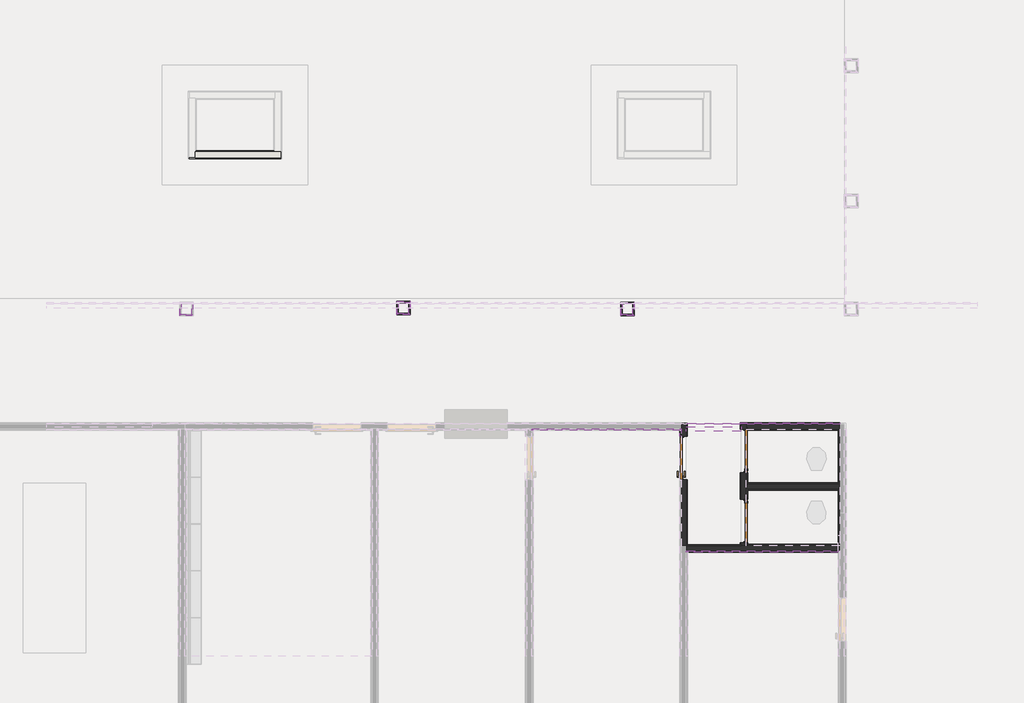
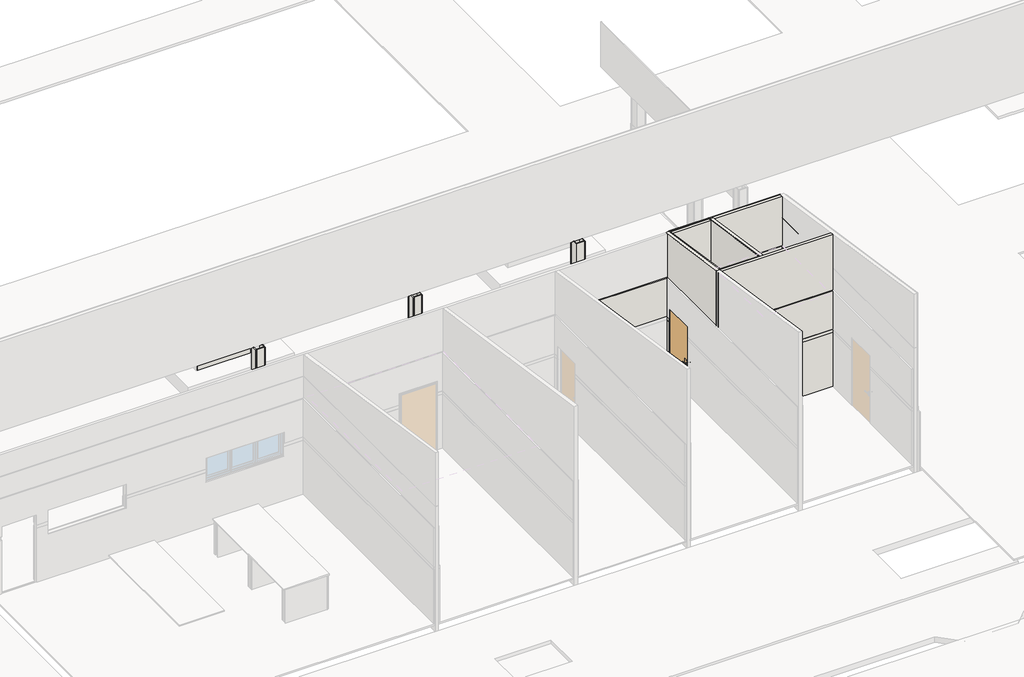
# One storey, part 5 of 28: 60 walls, 6 doors.
"""IFC4 building model written with IfcOpenShell, lengths in millimetres."""

from ifc_helpers import new_model, si_unit, frame, origin, origin_with_axes, place, context, project, spatial, polyline, outline, extrude, faceted_brep, transform, mapped, element, save
from components import door_29cd268e, door_29174598, door_95b59213, pf15_l82cm_5bfc7586, pf15_l82cm_686caa18, pm71_l82cm_d3679378

model = new_model("IFC4")

# Units and contexts
model_context = context("Model", 3, world=origin())
ifc_project = project(units=[si_unit("LENGTHUNIT", "METRE", prefix="MILLI")], contexts=[model_context])

# Site, building, storey
site = spatial("IfcSite", under=ifc_project)
building = spatial("IfcBuilding", under=site)
storey = spatial("IfcBuildingStorey", under=building, Name="Térreo", Elevation=0.0)

# Doors
placement = place(None, origin())
door_shape = door_29cd268e(model_context)
element("IfcDoor", 1, ObjectType="FDE_RP02_Reforço : FDE_RP02_Reforço", at=placement, inside=storey, context=model_context, shape_type="MappedRepresentation", body=[
    mapped(door_shape, transform((-37098.4091269, 9628.0, 1050.0), x_axis=(0.0, 1.0, 0.0), y_axis=(-1.0, 0.0, 0.0), z_axis=(0.0, 0.0, 1.0))),
])
door_2_shape = door_29174598(model_context)
element("IfcDoor", 2, ObjectType="FDE_SO_Soleiras1 : SO14_SoleiraRampadaDesnívelAté2cm_L=14cm_Cimentado 2", at=placement, inside=storey, context=model_context, shape_type="MappedRepresentation", body=[
    mapped(door_2_shape, transform((-35923.4091269, 8776.2493611, 215.0), x_axis=(0.0, -1.0, 0.0), y_axis=(1.0, 0.0, 0.0), z_axis=(0.0, 0.0, 1.0))),
])
door_3_shape = door_95b59213(model_context)
element("IfcDoor", 3, ObjectType="FDE_SO_Soleiras1 : SO14_SoleiraRampadaDesnívelAté2cm_L=14cm_Cimentado 2", at=placement, inside=storey, context=model_context, shape_type="MappedRepresentation", body=[
    mapped(door_3_shape, transform((-35923.4091269, 10123.0, 215.0), x_axis=(0.0, 1.0, 0.0), y_axis=(-1.0, 0.0, 0.0), z_axis=(0.0, 0.0, 1.0))),
])
pf15_l82cm_shape = pf15_l82cm_5bfc7586(model_context)
element("IfcDoor", 4, ObjectType="FDE_PF15_PF16_PF17_PortaemChapadeFerro : PF15_L82cm", at=placement, inside=storey, context=model_context, shape_type="MappedRepresentation", body=[
    mapped(pf15_l82cm_shape, transform((-35918.4091269, 8776.2493611, 215.0), x_axis=(0.0, -1.0, 0.0), y_axis=(1.0, 0.0, 0.0), z_axis=(0.0, 0.0, 1.0))),
])
pf15_l82cm_2_shape = pf15_l82cm_686caa18(model_context)
element("IfcDoor", 5, ObjectType="FDE_PF15_PF16_PF17_PortaemChapadeFerro : PF15_L82cm", at=placement, inside=storey, context=model_context, shape_type="MappedRepresentation", body=[
    mapped(pf15_l82cm_2_shape, transform((-35918.4091269, 10123.0, 215.0), x_axis=(0.0, 1.0, 0.0), y_axis=(-1.0, 0.0, 0.0), z_axis=(0.0, 0.0, 1.0))),
])
pm71_l82cm_shape = pm71_l82cm_d3679378(model_context)
element("IfcDoor", 6, ObjectType="FDE_PM70_PM71_PM72_PortadeMadeiraSarrafeada_BatenteMetálico : PM71_L82cm", at=placement, inside=storey, context=model_context, shape_type="MappedRepresentation", body=[
    mapped(pm71_l82cm_shape, transform((-37068.4091269, 9983.0, 0.0), x_axis=(0.0, 1.0, 0.0), y_axis=(-1.0, 0.0, 0.0), z_axis=(0.0, 0.0, 1.0))),
])

# Walls
element("IfcWall", 7, ObjectType="FDE_S712_AlvenariadeTijoloCerâmico/Baiano_Alvenaria_9cm - Existente", at=placement, inside=storey, context=model_context, shape_type="SweptSolid", body=[
    extrude(outline(polyline([(-34073.4091269, 8930.0), (-34073.4091269, 10631.3195082), (-33983.4091269, 10631.3195082), (-33983.4091269, 8930.0), (-34073.4091269, 8930.0)])), origin_with_axes(), (0.0, 0.0, 1.0), 3500.0),
])
element("IfcWall", 8, ObjectType="FDE_S712_AlvenariadeTijoloCerâmico/Baiano_Alvenaria_9cm - Existente", at=placement, inside=storey, context=model_context, shape_type="Brep", body=[
    faceted_brep([(-35873.4091269, 10541.3195082, 4104.3020738), (-35873.4091269, 10541.3195082, 0.0), (-34103.4091269, 10541.3195082, 0.0), (-34073.4091269, 10541.3195082, 0.0), (-34073.4091269, 10541.3195082, 2720.0), (-34073.4091269, 10541.3195082, 4104.3020738), (-35873.4091269, 10631.3195082, 0.0), (-35873.4091269, 10631.3195082, 2900.0), (-35873.4091269, 10631.3195082, 4090.8020738), (-34073.4091269, 10631.3195082, 4090.8020738), (-34073.4091269, 10631.3195082, 0.0), (-35873.4091269, 10586.3195082, 4097.5520738)], [[[0, 1, 2, 3, 4, 5]], [[6, 7, 8, 9, 10]], [[3, 2, 1, 6, 10]], [[0, 5, 9, 8, 11]], [[3, 10, 9, 5, 4]], [[0, 11, 8, 7, 6, 1]]]),
])
element("IfcWall", 9, ObjectType="FDE_S712_AlvenariadeTijoloCerâmico/Baiano_Alvenaria_9cm - Existente", at=placement, inside=storey, context=model_context, shape_type="Brep", body=[
    faceted_brep([(-34073.4091269, 8299.2493611, 0.0), (-34103.4091269, 8299.2493611, 0.0), (-35843.4091269, 8299.2493611, 0.0), (-35873.4091269, 8299.2493611, 0.0), (-35963.4091269, 8299.2493611, 0.0), (-37023.4091269, 8299.2493611, 0.0), (-37113.4091269, 8299.2493611, 0.0), (-37113.4091269, 8299.2493611, 4440.6125958), (-37023.4091269, 8299.2493611, 4440.6125958), (-35963.4091269, 8299.2493611, 4440.6125958), (-35873.4091269, 8299.2493611, 4440.6125958), (-34073.4091269, 8299.2493611, 4440.6125958), (-34073.4091269, 8299.2493611, 2720.0), (-34073.4091269, 8209.2493611, 0.0), (-34073.4091269, 8209.2493611, 220.0), (-34073.4091269, 8209.2493611, 1731.0528047), (-34073.4091269, 8209.2493611, 4454.1125958), (-37113.4091269, 8209.2493611, 4454.1125958), (-37113.4091269, 8209.2493611, 0.0)], [[[0, 1, 2, 3, 4, 5, 6, 7, 8, 9, 10, 11, 12]], [[13, 14, 15, 16, 17, 18]], [[6, 5, 4, 3, 2, 1, 0, 13, 18]], [[7, 6, 18, 17]], [[11, 10, 9, 8, 7, 17, 16]], [[0, 12, 11, 16, 15, 14, 13]]]),
])
element("IfcWall", 10, ObjectType="FDE_S712_AlvenariadeTijoloCerâmico/Baiano_Alvenaria_9cm - Existente", at=placement, inside=storey, context=model_context, shape_type="Brep", body=[
    faceted_brep([(-34073.4091269, 9484.6246806, 0.0), (-34103.4091269, 9484.6246806, 0.0), (-35843.4091269, 9484.6246806, 0.0), (-35873.4091269, 9484.6246806, 0.0), (-35873.4091269, 9484.6246806, 2720.0), (-35843.4091269, 9484.6246806, 2720.0), (-34103.4091269, 9484.6246806, 2720.0), (-34073.4091269, 9484.6246806, 2720.0), (-34073.4091269, 9394.6246806, 0.0), (-34073.4091269, 9394.6246806, 2720.0), (-34103.4091269, 9394.6246806, 2720.0), (-35873.4091269, 9394.6246806, 2720.0), (-35873.4091269, 9394.6246806, 0.0), (-34103.4091269, 9394.6246806, 0.0)], [[[0, 1, 2, 3, 4, 5, 6, 7]], [[8, 9, 10, 11, 12, 13]], [[3, 2, 1, 0, 8, 13, 12]], [[7, 6, 5, 4, 11, 10, 9]], [[4, 3, 12, 11]], [[0, 7, 9, 8]]]),
])
element("IfcWall", 11, ObjectType="FDE_S712_AlvenariadeTijoloCerâmico/Baiano_Alvenaria_9cm - Existente", at=placement, inside=storey, context=model_context, shape_type="Brep", body=[
    faceted_brep([(-37023.4091269, 8299.2493611, 4440.6125958), (-37023.4091269, 8299.2493611, 220.0), (-37023.4091269, 8299.2493611, 0.0), (-37023.4091269, 9566.0, 0.0), (-37023.4091269, 9566.0, 220.0), (-37023.4091269, 9566.0, 2112.0), (-37023.4091269, 10400.0, 2112.0), (-37023.4091269, 10400.0, 220.0), (-37023.4091269, 10400.0, 0.0), (-37023.4091269, 10652.3195082, 0.0), (-37023.4091269, 10652.3195082, 220.0), (-37023.4091269, 10652.3195082, 1824.9435125), (-37023.4091269, 10631.3195082, 1824.9435125), (-37023.4091269, 10631.3195082, 3944.0), (-37023.4091269, 10631.3195082, 4090.8020738), (-37023.4091269, 10586.3195082, 4097.5520738), (-37023.4091269, 10496.3195082, 4111.0520738), (-37113.4091269, 8299.2493611, 0.0), (-37113.4091269, 8299.2493611, 4440.6125958), (-37113.4091269, 10547.3195082, 4103.4020738), (-37113.4091269, 10631.3195082, 4090.8020738), (-37113.4091269, 10631.3195082, 3944.0), (-37113.4091269, 10631.3195082, 1824.9435125), (-37113.4091269, 10637.3195082, 1824.9435125), (-37113.4091269, 10652.3195082, 1824.9435125), (-37113.4091269, 10652.3195082, 0.0), (-37113.4091269, 10637.3195082, 0.0), (-37113.4091269, 10547.3195082, 0.0), (-37113.4091269, 10400.0, 0.0), (-37113.4091269, 10400.0, 2112.0), (-37113.4091269, 9566.0, 2112.0), (-37113.4091269, 9566.0, 0.0)], [[[0, 1, 2, 3, 4, 5, 6, 7, 8, 9, 10, 11, 12, 13, 14, 15, 16]], [[17, 18, 19, 20, 21, 22, 23, 24, 25, 26, 27, 28, 29, 30, 31]], [[25, 9, 8, 28, 27, 26]], [[2, 17, 31, 3]], [[2, 1, 0, 18, 17]], [[6, 29, 28, 8, 7]], [[29, 6, 5, 30]], [[30, 5, 4, 3, 31]], [[0, 16, 15, 14, 20, 19, 18]], [[9, 25, 24, 11, 10]], [[12, 11, 24, 23, 22]], [[12, 22, 21, 20, 14, 13]]]),
])
element("IfcWall", 12, ObjectType="FDE_S712_AlvenariadeTijoloCerâmico/Baiano_Alvenaria_9cm - Existente", at=placement, inside=storey, context=model_context, shape_type="Brep", body=[
    faceted_brep([(-35873.4091269, 8299.2493611, 0.0), (-35873.4091269, 9394.6246806, 0.0), (-35873.4091269, 9484.6246806, 0.0), (-35873.4091269, 10541.3195082, 0.0), (-35873.4091269, 10547.3195082, 0.0), (-35873.4091269, 10631.3195082, 0.0), (-35873.4091269, 10631.3195082, 2900.0), (-35873.4091269, 10586.3195082, 2900.0), (-35873.4091269, 10586.3195082, 4097.5520738), (-35873.4091269, 10541.3195082, 4104.3020738), (-35873.4091269, 8299.2493611, 4440.6125958), (-35873.4091269, 8299.2493611, 2720.0), (-35873.4091269, 8359.2493611, 215.0), (-35873.4091269, 8359.2493611, 2327.0), (-35873.4091269, 9193.2493611, 2327.0), (-35873.4091269, 9193.2493611, 215.0), (-35873.4091269, 10540.0, 2327.0), (-35873.4091269, 10540.0, 215.0), (-35873.4091269, 9706.0, 215.0), (-35873.4091269, 9706.0, 2327.0), (-35963.4091269, 10631.3195082, 0.0), (-35963.4091269, 8299.2493611, 0.0), (-35963.4091269, 8299.2493611, 4440.6125958), (-35963.4091269, 8320.2493611, 4437.4625958), (-35963.4091269, 10496.3195082, 4111.0520738), (-35963.4091269, 10586.3195082, 4097.5520738), (-35963.4091269, 10586.3195082, 2900.0), (-35963.4091269, 10631.3195082, 2900.0), (-35963.4091269, 10540.0, 215.0), (-35963.4091269, 10540.0, 220.0), (-35963.4091269, 10540.0, 2327.0), (-35963.4091269, 9706.0, 2327.0), (-35963.4091269, 9706.0, 220.0), (-35963.4091269, 9706.0, 215.0), (-35963.4091269, 8359.2493611, 2327.0), (-35963.4091269, 8359.2493611, 220.0), (-35963.4091269, 8359.2493611, 215.0), (-35963.4091269, 9193.2493611, 215.0), (-35963.4091269, 9193.2493611, 220.0), (-35963.4091269, 9193.2493611, 2327.0)], [[[0, 1, 2, 3, 4, 5, 6, 7, 8, 9, 10, 11], [12, 13, 14, 15], [16, 17, 18, 19]], [[20, 21, 22, 23, 24, 25, 26, 27], [28, 29, 30, 31, 32, 33], [34, 35, 36, 37, 38, 39]], [[5, 4, 3, 2, 1, 0, 21, 20]], [[0, 11, 10, 22, 21]], [[28, 17, 16, 30, 29]], [[30, 16, 19, 31]], [[18, 33, 32, 31, 19]], [[17, 28, 33, 18]], [[12, 36, 35, 34, 13]], [[13, 34, 39, 14]], [[14, 39, 38, 37, 15]], [[36, 12, 15, 37]], [[10, 9, 8, 25, 24, 23, 22]], [[7, 6, 27, 26]], [[5, 20, 27, 6]], [[25, 8, 7, 26]]]),
])
element("IfcWall", 13, ObjectType="FDE_S713_AlvenariadeTijoloLaminadoaVista_Alvenaria_1/2TijoloAlternado_11,5cm", at=placement, inside=storey, context=model_context, shape_type="Brep", body=[
    faceted_brep([(-46453.4525547, 15752.1451949, 0.0), (-44810.4525547, 15752.1451949, 0.0), (-44810.4525547, 15752.1451949, 800.0), (-46453.4525547, 15752.1451949, 800.0), (-46453.4525547, 15752.1451949, 100.0), (-46453.4525547, 15867.1451949, 0.0), (-46453.4525547, 15867.1451949, 800.0), (-44925.4525547, 15867.1451949, 800.0), (-44810.4525547, 15867.1451949, 800.0), (-44810.4525547, 15867.1451949, 100.0), (-44810.4525547, 15867.1451949, 0.0)], [[[0, 1, 2, 3, 4]], [[5, 6, 7, 8, 9, 10]], [[1, 0, 5, 10]], [[3, 2, 8, 7, 6]], [[2, 1, 10, 9, 8]], [[0, 4, 3, 6, 5]]]),
])
element("IfcWall", 14, ObjectType="Revestimento Cerâmico 10x10cm", at=placement, inside=storey, context=model_context, shape_type="SweptSolid", body=[
    extrude(outline(polyline([(-35984.4091269, 10667.3195082), (-34073.4091269, 10667.3195082), (-34073.4091269, 10637.3195082), (-35984.4091269, 10637.3195082), (-35984.4091269, 10667.3195082)])), origin_with_axes(), (0.0, 0.0, 1.0), 1731.0528047),
])
element("IfcWall", 15, ObjectType="Revestimento Cerâmico 10x10cm", at=placement, inside=storey, context=model_context, shape_type="Brep", body=[
    faceted_brep([(-35873.4091269, 10547.3195082, 0.0), (-35873.4091269, 9484.6246806, 0.0), (-35873.4091269, 9484.6246806, 2720.0), (-35873.4091269, 10547.3195082, 2720.0), (-35873.4091269, 10540.0, 215.0), (-35873.4091269, 10540.0, 2327.0), (-35873.4091269, 9706.0, 2327.0), (-35873.4091269, 9706.0, 215.0), (-35843.4091269, 9484.6246806, 0.0), (-35843.4091269, 9514.6246806, 0.0), (-35843.4091269, 10517.3195082, 0.0), (-35843.4091269, 10547.3195082, 0.0), (-35843.4091269, 10547.3195082, 2720.0), (-35843.4091269, 10517.3195082, 2720.0), (-35843.4091269, 9514.6246806, 2720.0), (-35843.4091269, 9484.6246806, 2720.0), (-35843.4091269, 10540.0, 2327.0), (-35843.4091269, 10540.0, 215.0), (-35843.4091269, 9706.0, 215.0), (-35843.4091269, 9706.0, 2327.0)], [[[0, 1, 2, 3], [4, 5, 6, 7]], [[8, 9, 10, 11, 12, 13, 14, 15], [16, 17, 18, 19]], [[1, 0, 11, 10, 9, 8]], [[3, 2, 15, 14, 13, 12]], [[2, 1, 8, 15]], [[0, 3, 12, 11]], [[4, 17, 16, 5]], [[5, 16, 19, 6]], [[6, 19, 18, 7]], [[17, 4, 7, 18]]]),
])
element("IfcWall", 16, ObjectType="Revestimento Cerâmico 10x10cm", at=placement, inside=storey, context=model_context, shape_type="SweptSolid", body=[
    extrude(outline(polyline([(-34073.4091269, 9484.6246806), (-35843.4091269, 9484.6246806), (-35843.4091269, 9514.6246806), (-34073.4091269, 9514.6246806), (-34073.4091269, 9484.6246806)])), origin_with_axes(), (0.0, 0.0, 1.0), 2720.0),
])
element("IfcWall", 17, ObjectType="Revestimento Cerâmico 10x10cm", at=placement, inside=storey, context=model_context, shape_type="Brep", body=[
    faceted_brep([(-34073.4091269, 9484.6246806, 0.0), (-34073.4091269, 10541.3195082, 0.0), (-34073.4091269, 10541.3195082, 2720.0), (-34073.4091269, 9484.6246806, 2720.0), (-34103.4091269, 9484.6246806, 0.0), (-34103.4091269, 9484.6246806, 2720.0), (-34103.4091269, 10517.3195082, 2720.0), (-34103.4091269, 10541.3195082, 2720.0), (-34103.4091269, 10541.3195082, 0.0), (-34103.4091269, 10517.3195082, 0.0)], [[[0, 1, 2, 3]], [[4, 5, 6, 7, 8, 9]], [[1, 0, 4, 9, 8]], [[3, 2, 7, 6, 5]], [[0, 3, 5, 4]], [[2, 1, 8, 7]]]),
])
element("IfcWall", 18, ObjectType="Revestimento Cerâmico 10x10cm", at=placement, inside=storey, context=model_context, shape_type="Brep", body=[
    faceted_brep([(-34103.4091269, 10547.3195082, 0.0), (-35843.4091269, 10547.3195082, 0.0), (-35843.4091269, 10547.3195082, 2720.0), (-34103.4091269, 10547.3195082, 2720.0), (-34103.4091269, 10517.3195082, 0.0), (-34103.4091269, 10517.3195082, 2720.0), (-35843.4091269, 10517.3195082, 2720.0), (-35843.4091269, 10517.3195082, 0.0), (-34103.4091269, 10541.3195082, 0.0), (-34103.4091269, 10541.3195082, 2720.0)], [[[0, 1, 2, 3]], [[4, 5, 6, 7]], [[1, 0, 8, 4, 7]], [[3, 2, 6, 5, 9]], [[0, 3, 9, 5, 4, 8]], [[2, 1, 7, 6]]]),
])
element("IfcWall", 19, ObjectType="Pardes Externas_Pintura Acrílica Branco Neve", at=placement, inside=storey, context=model_context, shape_type="Brep", body=[
    faceted_brep([(-38271.9091269, 12950.0, 1794.0), (-38250.9091269, 12950.0, 1794.0), (-38050.9091269, 12950.0, 1794.0), (-38029.9091269, 12950.0, 1794.0), (-38029.9091269, 12950.0, 2900.0), (-38050.9091269, 12950.0, 2900.0), (-38250.9091269, 12950.0, 2900.0), (-38271.9091269, 12950.0, 2900.0), (-38271.9091269, 12971.0, 1794.0), (-38271.9091269, 12971.0, 2900.0), (-38029.9091269, 12971.0, 2900.0), (-38029.9091269, 12971.0, 1794.0)], [[[0, 1, 2, 3, 4, 5, 6, 7]], [[8, 9, 10, 11]], [[3, 2, 1, 0, 8, 11]], [[7, 6, 5, 4, 10, 9]], [[0, 7, 9, 8]], [[4, 3, 11, 10]]]),
])
element("IfcWall", 20, ObjectType="Revestimento Cerâmico 10x10cm", at=placement, inside=storey, context=model_context, shape_type="Brep", body=[
    faceted_brep([(-38280.9091269, 12950.0, 194.0), (-38250.9091269, 12950.0, 194.0), (-38050.9091269, 12950.0, 194.0), (-38020.9091269, 12950.0, 194.0), (-38020.9091269, 12950.0, 1694.0), (-38050.9091269, 12950.0, 1694.0), (-38250.9091269, 12950.0, 1694.0), (-38280.9091269, 12950.0, 1694.0), (-38280.9091269, 12980.0, 194.0), (-38280.9091269, 12980.0, 1694.0), (-38020.9091269, 12980.0, 1694.0), (-38020.9091269, 12980.0, 194.0)], [[[0, 1, 2, 3, 4, 5, 6, 7]], [[8, 9, 10, 11]], [[3, 2, 1, 0, 8, 11]], [[7, 6, 5, 4, 10, 9]], [[0, 7, 9, 8]], [[4, 3, 11, 10]]]),
])
element("IfcWall", 21, ObjectType="Revestimento Cerâmico 10x10cm", at=placement, inside=storey, context=model_context, shape_type="Brep", body=[
    faceted_brep([(-38250.9091269, 12720.0, 194.0), (-38250.9091269, 12750.0, 194.0), (-38250.9091269, 12950.0, 194.0), (-38250.9091269, 12950.0, 1694.0), (-38250.9091269, 12750.0, 1694.0), (-38250.9091269, 12720.0, 1694.0), (-38280.9091269, 12720.0, 194.0), (-38280.9091269, 12720.0, 1694.0), (-38280.9091269, 12950.0, 1694.0), (-38280.9091269, 12950.0, 194.0)], [[[0, 1, 2, 3, 4, 5]], [[6, 7, 8, 9]], [[2, 1, 0, 6, 9]], [[5, 4, 3, 8, 7]], [[3, 2, 9, 8]], [[0, 5, 7, 6]]]),
])
element("IfcWall", 22, ObjectType="Revestimento Cerâmico 10x10cm", at=placement, inside=storey, context=model_context, shape_type="Brep", body=[
    faceted_brep([(-38050.9091269, 12950.0, 194.0), (-38050.9091269, 12750.0, 194.0), (-38050.9091269, 12720.0, 194.0), (-38050.9091269, 12720.0, 1694.0), (-38050.9091269, 12750.0, 1694.0), (-38050.9091269, 12950.0, 1694.0), (-38020.9091269, 12950.0, 194.0), (-38020.9091269, 12950.0, 1694.0), (-38020.9091269, 12720.0, 1694.0), (-38020.9091269, 12720.0, 194.0)], [[[0, 1, 2, 3, 4, 5]], [[6, 7, 8, 9]], [[2, 1, 0, 6, 9]], [[5, 4, 3, 8, 7]], [[0, 5, 7, 6]], [[3, 2, 9, 8]]]),
])
element("IfcWall", 23, ObjectType="Revestimento Cerâmico 10x10cm", at=placement, inside=storey, context=model_context, shape_type="SweptSolid", body=[
    extrude(outline(polyline([(-38050.9091269, 12720.0), (-38250.9091269, 12720.0), (-38250.9091269, 12750.0), (-38050.9091269, 12750.0), (-38050.9091269, 12720.0)])), frame((0.0, 0.0, 194.0), z_axis=(0.0, 0.0, 1.0), x_axis=(1.0, 0.0, 0.0)), (0.0, 0.0, 1.0), 1500.0),
])
element("IfcWall", 24, ObjectType="Faixa - Revestimento Cerâmico Verde Folha 10x10cm", at=placement, inside=storey, context=model_context, shape_type="Brep", body=[
    faceted_brep([(-38280.9091269, 12950.0, 1694.0), (-38250.9091269, 12950.0, 1694.0), (-38050.9091269, 12950.0, 1694.0), (-38020.9091269, 12950.0, 1694.0), (-38020.9091269, 12950.0, 1794.0), (-38050.9091269, 12950.0, 1794.0), (-38250.9091269, 12950.0, 1794.0), (-38280.9091269, 12950.0, 1794.0), (-38280.9091269, 12980.0, 1694.0), (-38280.9091269, 12980.0, 1794.0), (-38020.9091269, 12980.0, 1794.0), (-38020.9091269, 12980.0, 1694.0)], [[[0, 1, 2, 3, 4, 5, 6, 7]], [[8, 9, 10, 11]], [[3, 2, 1, 0, 8, 11]], [[7, 6, 5, 4, 10, 9]], [[4, 3, 11, 10]], [[0, 7, 9, 8]]]),
])
element("IfcWall", 25, ObjectType="Faixa - Revestimento Cerâmico Verde Folha 10x10cm", at=placement, inside=storey, context=model_context, shape_type="Brep", body=[
    faceted_brep([(-38050.9091269, 12950.0, 1694.0), (-38050.9091269, 12750.0, 1694.0), (-38050.9091269, 12720.0, 1694.0), (-38050.9091269, 12720.0, 1794.0), (-38050.9091269, 12750.0, 1794.0), (-38050.9091269, 12950.0, 1794.0), (-38020.9091269, 12950.0, 1694.0), (-38020.9091269, 12950.0, 1794.0), (-38020.9091269, 12720.0, 1794.0), (-38020.9091269, 12720.0, 1694.0)], [[[0, 1, 2, 3, 4, 5]], [[6, 7, 8, 9]], [[2, 1, 0, 6, 9]], [[5, 4, 3, 8, 7]], [[0, 5, 7, 6]], [[3, 2, 9, 8]]]),
])
element("IfcWall", 26, ObjectType="Faixa - Revestimento Cerâmico Verde Folha 10x10cm", at=placement, inside=storey, context=model_context, shape_type="Brep", body=[
    faceted_brep([(-38280.9091269, 12720.0, 1694.0), (-38050.9091269, 12720.0, 1694.0), (-38050.9091269, 12720.0, 1794.0), (-38280.9091269, 12720.0, 1794.0), (-38280.9091269, 12750.0, 1694.0), (-38280.9091269, 12750.0, 1794.0), (-38250.9091269, 12750.0, 1794.0), (-38050.9091269, 12750.0, 1794.0), (-38050.9091269, 12750.0, 1694.0), (-38250.9091269, 12750.0, 1694.0), (-38050.9091269, 12729.0, 1794.0)], [[[0, 1, 2, 3]], [[4, 5, 6, 7, 8, 9]], [[1, 0, 4, 9, 8]], [[3, 2, 10, 7, 6, 5]], [[2, 1, 8, 7, 10]], [[0, 3, 5, 4]]]),
])
element("IfcWall", 27, ObjectType="Faixa - Revestimento Cerâmico Verde Folha 10x10cm", at=placement, inside=storey, context=model_context, shape_type="SweptSolid", body=[
    extrude(outline(polyline([(-38280.9091269, 12750.0), (-38280.9091269, 12950.0), (-38250.9091269, 12950.0), (-38250.9091269, 12750.0), (-38280.9091269, 12750.0)])), frame((0.0, 0.0, 1694.0), z_axis=(0.0, 0.0, 1.0), x_axis=(1.0, 0.0, 0.0)), (0.0, 0.0, 1.0), 100.0),
])
element("IfcWall", 28, ObjectType="Pardes Externas_Pintura Acrílica Branco Neve", at=placement, inside=storey, context=model_context, shape_type="SweptSolid", body=[
    extrude(outline(polyline([(-38050.9091269, 12729.0), (-38250.9091269, 12729.0), (-38250.9091269, 12750.0), (-38050.9091269, 12750.0), (-38050.9091269, 12729.0)])), frame((0.0, 0.0, 1794.0), z_axis=(0.0, 0.0, 1.0), x_axis=(1.0, 0.0, 0.0)), (0.0, 0.0, 1.0), 1106.0),
])
element("IfcWall", 29, ObjectType="Pardes Externas_Pintura Acrílica Branco Neve", at=placement, inside=storey, context=model_context, shape_type="Brep", body=[
    faceted_brep([(-38050.9091269, 12950.0, 1794.0), (-38050.9091269, 12750.0, 1794.0), (-38050.9091269, 12729.0, 1794.0), (-38050.9091269, 12729.0, 2900.0), (-38050.9091269, 12750.0, 2900.0), (-38050.9091269, 12950.0, 2900.0), (-38029.9091269, 12950.0, 1794.0), (-38029.9091269, 12950.0, 2900.0), (-38029.9091269, 12729.0, 2900.0), (-38029.9091269, 12729.0, 1794.0)], [[[0, 1, 2, 3, 4, 5]], [[6, 7, 8, 9]], [[2, 1, 0, 6, 9]], [[5, 4, 3, 8, 7]], [[3, 2, 9, 8]], [[0, 5, 7, 6]]]),
])
element("IfcWall", 30, ObjectType="Pardes Externas_Pintura Acrílica Branco Neve", at=placement, inside=storey, context=model_context, shape_type="Brep", body=[
    faceted_brep([(-38271.9091269, 12950.0, 1794.0), (-38271.9091269, 12729.0, 1794.0), (-38271.9091269, 12729.0, 2900.0), (-38271.9091269, 12950.0, 2900.0), (-38250.9091269, 12950.0, 1794.0), (-38250.9091269, 12950.0, 2900.0), (-38250.9091269, 12750.0, 2900.0), (-38250.9091269, 12729.0, 2900.0), (-38250.9091269, 12729.0, 1794.0), (-38250.9091269, 12750.0, 1794.0)], [[[0, 1, 2, 3]], [[4, 5, 6, 7, 8, 9]], [[1, 0, 4, 9, 8]], [[3, 2, 7, 6, 5]], [[2, 1, 8, 7]], [[0, 3, 5, 4]]]),
])
element("IfcWall", 31, ObjectType="Pardes Externas_Pintura Acrílica Branco Neve", at=placement, inside=storey, context=model_context, shape_type="Brep", body=[
    faceted_brep([(-42569.4091269, 12965.0, 1794.0), (-42548.4091269, 12965.0, 1794.0), (-42348.4091269, 12965.0, 1794.0), (-42327.4091269, 12965.0, 1794.0), (-42327.4091269, 12965.0, 2900.0), (-42348.4091269, 12965.0, 2900.0), (-42548.4091269, 12965.0, 2900.0), (-42569.4091269, 12965.0, 2900.0), (-42569.4091269, 12986.0, 1794.0), (-42569.4091269, 12986.0, 2900.0), (-42327.4091269, 12986.0, 2900.0), (-42327.4091269, 12986.0, 1794.0)], [[[0, 1, 2, 3, 4, 5, 6, 7]], [[8, 9, 10, 11]], [[3, 2, 1, 0, 8, 11]], [[7, 6, 5, 4, 10, 9]], [[0, 7, 9, 8]], [[4, 3, 11, 10]]]),
])
element("IfcWall", 32, ObjectType="Revestimento Cerâmico 10x10cm", at=placement, inside=storey, context=model_context, shape_type="Brep", body=[
    faceted_brep([(-42578.4091269, 12965.0, 194.0), (-42548.4091269, 12965.0, 194.0), (-42348.4091269, 12965.0, 194.0), (-42318.4091269, 12965.0, 194.0), (-42318.4091269, 12965.0, 1694.0), (-42348.4091269, 12965.0, 1694.0), (-42548.4091269, 12965.0, 1694.0), (-42578.4091269, 12965.0, 1694.0), (-42578.4091269, 12995.0, 194.0), (-42578.4091269, 12995.0, 1694.0), (-42318.4091269, 12995.0, 1694.0), (-42318.4091269, 12995.0, 194.0)], [[[0, 1, 2, 3, 4, 5, 6, 7]], [[8, 9, 10, 11]], [[3, 2, 1, 0, 8, 11]], [[7, 6, 5, 4, 10, 9]], [[0, 7, 9, 8]], [[4, 3, 11, 10]]]),
])
element("IfcWall", 33, ObjectType="Revestimento Cerâmico 10x10cm", at=placement, inside=storey, context=model_context, shape_type="Brep", body=[
    faceted_brep([(-42548.4091269, 12735.0, 194.0), (-42548.4091269, 12765.0, 194.0), (-42548.4091269, 12965.0, 194.0), (-42548.4091269, 12965.0, 1694.0), (-42548.4091269, 12765.0, 1694.0), (-42548.4091269, 12735.0, 1694.0), (-42578.4091269, 12735.0, 194.0), (-42578.4091269, 12735.0, 1694.0), (-42578.4091269, 12965.0, 1694.0), (-42578.4091269, 12965.0, 194.0)], [[[0, 1, 2, 3, 4, 5]], [[6, 7, 8, 9]], [[2, 1, 0, 6, 9]], [[5, 4, 3, 8, 7]], [[3, 2, 9, 8]], [[0, 5, 7, 6]]]),
])
element("IfcWall", 34, ObjectType="Revestimento Cerâmico 10x10cm", at=placement, inside=storey, context=model_context, shape_type="Brep", body=[
    faceted_brep([(-42348.4091269, 12965.0, 194.0), (-42348.4091269, 12765.0, 194.0), (-42348.4091269, 12735.0, 194.0), (-42348.4091269, 12735.0, 1694.0), (-42348.4091269, 12765.0, 1694.0), (-42348.4091269, 12965.0, 1694.0), (-42318.4091269, 12965.0, 194.0), (-42318.4091269, 12965.0, 1694.0), (-42318.4091269, 12735.0, 1694.0), (-42318.4091269, 12735.0, 194.0)], [[[0, 1, 2, 3, 4, 5]], [[6, 7, 8, 9]], [[2, 1, 0, 6, 9]], [[5, 4, 3, 8, 7]], [[0, 5, 7, 6]], [[3, 2, 9, 8]]]),
])
element("IfcWall", 35, ObjectType="Revestimento Cerâmico 10x10cm", at=placement, inside=storey, context=model_context, shape_type="SweptSolid", body=[
    extrude(outline(polyline([(-42348.4091269, 12735.0), (-42548.4091269, 12735.0), (-42548.4091269, 12765.0), (-42348.4091269, 12765.0), (-42348.4091269, 12735.0)])), frame((0.0, 0.0, 194.0), z_axis=(0.0, 0.0, 1.0), x_axis=(1.0, 0.0, 0.0)), (0.0, 0.0, 1.0), 1500.0),
])
element("IfcWall", 36, ObjectType="Faixa - Revestimento Cerâmico Verde Folha 10x10cm", at=placement, inside=storey, context=model_context, shape_type="Brep", body=[
    faceted_brep([(-42578.4091269, 12965.0, 1694.0), (-42548.4091269, 12965.0, 1694.0), (-42348.4091269, 12965.0, 1694.0), (-42318.4091269, 12965.0, 1694.0), (-42318.4091269, 12965.0, 1794.0), (-42348.4091269, 12965.0, 1794.0), (-42548.4091269, 12965.0, 1794.0), (-42578.4091269, 12965.0, 1794.0), (-42578.4091269, 12995.0, 1694.0), (-42578.4091269, 12995.0, 1794.0), (-42318.4091269, 12995.0, 1794.0), (-42318.4091269, 12995.0, 1694.0)], [[[0, 1, 2, 3, 4, 5, 6, 7]], [[8, 9, 10, 11]], [[3, 2, 1, 0, 8, 11]], [[7, 6, 5, 4, 10, 9]], [[4, 3, 11, 10]], [[0, 7, 9, 8]]]),
])
element("IfcWall", 37, ObjectType="Faixa - Revestimento Cerâmico Verde Folha 10x10cm", at=placement, inside=storey, context=model_context, shape_type="Brep", body=[
    faceted_brep([(-42348.4091269, 12965.0, 1694.0), (-42348.4091269, 12765.0, 1694.0), (-42348.4091269, 12735.0, 1694.0), (-42348.4091269, 12735.0, 1794.0), (-42348.4091269, 12765.0, 1794.0), (-42348.4091269, 12965.0, 1794.0), (-42318.4091269, 12965.0, 1694.0), (-42318.4091269, 12965.0, 1794.0), (-42318.4091269, 12735.0, 1794.0), (-42318.4091269, 12735.0, 1694.0)], [[[0, 1, 2, 3, 4, 5]], [[6, 7, 8, 9]], [[2, 1, 0, 6, 9]], [[5, 4, 3, 8, 7]], [[0, 5, 7, 6]], [[3, 2, 9, 8]]]),
])
element("IfcWall", 38, ObjectType="Faixa - Revestimento Cerâmico Verde Folha 10x10cm", at=placement, inside=storey, context=model_context, shape_type="Brep", body=[
    faceted_brep([(-42578.4091269, 12735.0, 1694.0), (-42348.4091269, 12735.0, 1694.0), (-42348.4091269, 12735.0, 1794.0), (-42578.4091269, 12735.0, 1794.0), (-42578.4091269, 12765.0, 1694.0), (-42578.4091269, 12765.0, 1794.0), (-42548.4091269, 12765.0, 1794.0), (-42348.4091269, 12765.0, 1794.0), (-42348.4091269, 12765.0, 1694.0), (-42548.4091269, 12765.0, 1694.0), (-42348.4091269, 12744.0, 1794.0)], [[[0, 1, 2, 3]], [[4, 5, 6, 7, 8, 9]], [[1, 0, 4, 9, 8]], [[3, 2, 10, 7, 6, 5]], [[2, 1, 8, 7, 10]], [[0, 3, 5, 4]]]),
])
element("IfcWall", 39, ObjectType="Faixa - Revestimento Cerâmico Verde Folha 10x10cm", at=placement, inside=storey, context=model_context, shape_type="SweptSolid", body=[
    extrude(outline(polyline([(-42578.4091269, 12765.0), (-42578.4091269, 12965.0), (-42548.4091269, 12965.0), (-42548.4091269, 12765.0), (-42578.4091269, 12765.0)])), frame((0.0, 0.0, 1694.0), z_axis=(0.0, 0.0, 1.0), x_axis=(1.0, 0.0, 0.0)), (0.0, 0.0, 1.0), 100.0),
])
element("IfcWall", 40, ObjectType="Pardes Externas_Pintura Acrílica Branco Neve", at=placement, inside=storey, context=model_context, shape_type="SweptSolid", body=[
    extrude(outline(polyline([(-42348.4091269, 12744.0), (-42548.4091269, 12744.0), (-42548.4091269, 12765.0), (-42348.4091269, 12765.0), (-42348.4091269, 12744.0)])), frame((0.0, 0.0, 1794.0), z_axis=(0.0, 0.0, 1.0), x_axis=(1.0, 0.0, 0.0)), (0.0, 0.0, 1.0), 1106.0),
])
element("IfcWall", 41, ObjectType="Pardes Externas_Pintura Acrílica Branco Neve", at=placement, inside=storey, context=model_context, shape_type="Brep", body=[
    faceted_brep([(-42348.4091269, 12965.0, 1794.0), (-42348.4091269, 12765.0, 1794.0), (-42348.4091269, 12744.0, 1794.0), (-42348.4091269, 12744.0, 2900.0), (-42348.4091269, 12765.0, 2900.0), (-42348.4091269, 12965.0, 2900.0), (-42327.4091269, 12965.0, 1794.0), (-42327.4091269, 12965.0, 2900.0), (-42327.4091269, 12744.0, 2900.0), (-42327.4091269, 12744.0, 1794.0)], [[[0, 1, 2, 3, 4, 5]], [[6, 7, 8, 9]], [[2, 1, 0, 6, 9]], [[5, 4, 3, 8, 7]], [[3, 2, 9, 8]], [[0, 5, 7, 6]]]),
])
element("IfcWall", 42, ObjectType="Pardes Externas_Pintura Acrílica Branco Neve", at=placement, inside=storey, context=model_context, shape_type="Brep", body=[
    faceted_brep([(-42569.4091269, 12965.0, 1794.0), (-42569.4091269, 12744.0, 1794.0), (-42569.4091269, 12744.0, 2900.0), (-42569.4091269, 12965.0, 2900.0), (-42548.4091269, 12965.0, 1794.0), (-42548.4091269, 12965.0, 2900.0), (-42548.4091269, 12765.0, 2900.0), (-42548.4091269, 12744.0, 2900.0), (-42548.4091269, 12744.0, 1794.0), (-42548.4091269, 12765.0, 1794.0)], [[[0, 1, 2, 3]], [[4, 5, 6, 7, 8, 9]], [[1, 0, 4, 9, 8]], [[3, 2, 7, 6, 5]], [[2, 1, 8, 7]], [[0, 3, 5, 4]]]),
])
element("IfcWall", 43, ObjectType="Faixa - Revestimento Cerâmico Verde Folha 10x10cm", at=placement, inside=storey, context=model_context, shape_type="Brep", body=[
    faceted_brep([(-46753.4091269, 12720.0, 1694.0), (-46523.4091269, 12720.0, 1694.0), (-46523.4091269, 12720.0, 1794.0), (-46753.4091269, 12720.0, 1794.0), (-46753.4091269, 12750.0, 1694.0), (-46753.4091269, 12750.0, 1794.0), (-46723.4091269, 12750.0, 1794.0), (-46523.4091269, 12750.0, 1794.0), (-46523.4091269, 12750.0, 1694.0), (-46723.4091269, 12750.0, 1694.0), (-46523.4091269, 12729.0, 1794.0)], [[[0, 1, 2, 3]], [[4, 5, 6, 7, 8, 9]], [[1, 0, 4, 9, 8]], [[3, 2, 10, 7, 6, 5]], [[2, 1, 8, 7, 10]], [[0, 3, 5, 4]]]),
])
element("IfcWall", 44, ObjectType="Faixa - Revestimento Cerâmico Verde Folha 10x10cm", at=placement, inside=storey, context=model_context, shape_type="SweptSolid", body=[
    extrude(outline(polyline([(-46753.4091269, 12750.0), (-46753.4091269, 12950.0), (-46723.4091269, 12950.0), (-46723.4091269, 12750.0), (-46753.4091269, 12750.0)])), frame((0.0, 0.0, 1694.0), z_axis=(0.0, 0.0, 1.0), x_axis=(1.0, 0.0, 0.0)), (0.0, 0.0, 1.0), 100.0),
])
element("IfcWall", 45, ObjectType="Pardes Externas_Pintura Acrílica Branco Neve", at=placement, inside=storey, context=model_context, shape_type="SweptSolid", body=[
    extrude(outline(polyline([(-46523.4091269, 12729.0), (-46723.4091269, 12729.0), (-46723.4091269, 12750.0), (-46523.4091269, 12750.0), (-46523.4091269, 12729.0)])), frame((0.0, 0.0, 1794.0), z_axis=(0.0, 0.0, 1.0), x_axis=(1.0, 0.0, 0.0)), (0.0, 0.0, 1.0), 1106.0),
])
element("IfcWall", 46, ObjectType="Pardes Externas_Pintura Acrílica Branco Neve", at=placement, inside=storey, context=model_context, shape_type="Brep", body=[
    faceted_brep([(-46523.4091269, 12950.0, 1794.0), (-46523.4091269, 12750.0, 1794.0), (-46523.4091269, 12729.0, 1794.0), (-46523.4091269, 12729.0, 2900.0), (-46523.4091269, 12750.0, 2900.0), (-46523.4091269, 12950.0, 2900.0), (-46502.4091269, 12950.0, 1794.0), (-46502.4091269, 12950.0, 2900.0), (-46502.4091269, 12729.0, 2900.0), (-46502.4091269, 12729.0, 1794.0)], [[[0, 1, 2, 3, 4, 5]], [[6, 7, 8, 9]], [[2, 1, 0, 6, 9]], [[5, 4, 3, 8, 7]], [[3, 2, 9, 8]], [[0, 5, 7, 6]]]),
])
element("IfcWall", 47, ObjectType="Pardes Externas_Pintura Acrílica Branco Neve", at=placement, inside=storey, context=model_context, shape_type="Brep", body=[
    faceted_brep([(-46744.4091269, 12950.0, 1794.0), (-46744.4091269, 12729.0, 1794.0), (-46744.4091269, 12729.0, 2900.0), (-46744.4091269, 12950.0, 2900.0), (-46723.4091269, 12950.0, 1794.0), (-46723.4091269, 12950.0, 2900.0), (-46723.4091269, 12750.0, 2900.0), (-46723.4091269, 12729.0, 2900.0), (-46723.4091269, 12729.0, 1794.0), (-46723.4091269, 12750.0, 1794.0)], [[[0, 1, 2, 3]], [[4, 5, 6, 7, 8, 9]], [[1, 0, 4, 9, 8]], [[3, 2, 7, 6, 5]], [[2, 1, 8, 7]], [[0, 3, 5, 4]]]),
])
element("IfcWall", 48, ObjectType="Revestimento Cerâmico 10x10cm", at=placement, inside=storey, context=model_context, shape_type="Brep", body=[
    faceted_brep([(-35873.4091269, 9394.6246806, 0.0), (-35873.4091269, 8299.2493611, 0.0), (-35873.4091269, 8299.2493611, 2720.0), (-35873.4091269, 9394.6246806, 2720.0), (-35873.4091269, 8359.2493611, 2327.0), (-35873.4091269, 8359.2493611, 215.0), (-35873.4091269, 9193.2493611, 215.0), (-35873.4091269, 9193.2493611, 2327.0), (-35843.4091269, 8299.2493611, 0.0), (-35843.4091269, 9364.6246806, 0.0), (-35843.4091269, 9394.6246806, 0.0), (-35843.4091269, 9394.6246806, 2720.0), (-35843.4091269, 9364.6246806, 2720.0), (-35843.4091269, 8329.2493611, 2720.0), (-35843.4091269, 8299.2493611, 2720.0), (-35843.4091269, 8299.2493611, 220.0), (-35843.4091269, 8359.2493611, 215.0), (-35843.4091269, 8359.2493611, 2327.0), (-35843.4091269, 9193.2493611, 2327.0), (-35843.4091269, 9193.2493611, 215.0)], [[[0, 1, 2, 3], [4, 5, 6, 7]], [[8, 9, 10, 11, 12, 13, 14, 15], [16, 17, 18, 19]], [[1, 0, 10, 9, 8]], [[3, 2, 14, 13, 12, 11]], [[2, 1, 8, 15, 14]], [[0, 3, 11, 10]], [[16, 5, 4, 17]], [[17, 4, 7, 18]], [[18, 7, 6, 19]], [[5, 16, 19, 6]]]),
])
element("IfcWall", 49, ObjectType="Revestimento Cerâmico 10x10cm", at=placement, inside=storey, context=model_context, shape_type="SweptSolid", body=[
    extrude(outline(polyline([(-34073.4091269, 8299.2493611), (-35843.4091269, 8299.2493611), (-35843.4091269, 8329.2493611), (-34073.4091269, 8329.2493611), (-34073.4091269, 8299.2493611)])), frame((0.0, 0.0, 220.0), z_axis=(0.0, 0.0, 1.0), x_axis=(1.0, 0.0, 0.0)), (0.0, 0.0, 1.0), 2500.0),
])
element("IfcWall", 50, ObjectType="Revestimento Cerâmico 10x10cm", at=placement, inside=storey, context=model_context, shape_type="Brep", body=[
    faceted_brep([(-34073.4091269, 8299.2493611, 2720.0), (-34073.4091269, 8299.2493611, 0.0), (-34073.4091269, 9394.6246806, 0.0), (-34073.4091269, 9394.6246806, 2720.0), (-34103.4091269, 8299.2493611, 0.0), (-34103.4091269, 8299.2493611, 2720.0), (-34103.4091269, 9364.6246806, 2720.0), (-34103.4091269, 9394.6246806, 2720.0), (-34103.4091269, 9394.6246806, 0.0), (-34103.4091269, 9364.6246806, 0.0)], [[[0, 1, 2, 3]], [[4, 5, 6, 7, 8, 9]], [[2, 1, 4, 9, 8]], [[0, 3, 7, 6, 5]], [[3, 2, 8, 7]], [[0, 5, 4, 1]]]),
])
element("IfcWall", 51, ObjectType="Revestimento Cerâmico 10x10cm", at=placement, inside=storey, context=model_context, shape_type="SweptSolid", body=[
    extrude(outline(polyline([(-35843.4091269, 9394.6246806), (-34103.4091269, 9394.6246806), (-34103.4091269, 9364.6246806), (-35843.4091269, 9364.6246806), (-35843.4091269, 9394.6246806)])), origin_with_axes(), (0.0, 0.0, 1.0), 2720.0),
])
element("IfcWall", 52, ObjectType="Pardes Externas_Pintura Acrílica Branco Neve", at=placement, inside=storey, context=model_context, shape_type="Brep", body=[
    faceted_brep([(-35984.4091269, 10637.3195082, 1824.9435125), (-34073.4091269, 10637.3195082, 1824.9435125), (-34073.4091269, 10637.3195082, 4089.9020738), (-35984.4091269, 10637.3195082, 4089.9020738), (-35984.4091269, 10637.3195082, 2900.0), (-35984.4091269, 10658.3195082, 1824.9435125), (-35984.4091269, 10658.3195082, 2900.0), (-35984.4091269, 10658.3195082, 4086.7520738), (-34073.4091269, 10658.3195082, 4086.7520738), (-34073.4091269, 10658.3195082, 1824.9435125)], [[[0, 1, 2, 3, 4]], [[5, 6, 7, 8, 9]], [[3, 2, 8, 7]], [[1, 0, 5, 9]], [[0, 4, 3, 7, 6, 5]], [[1, 9, 8, 2]]]),
])
element("IfcWall", 53, ObjectType="Faixa - Revestimento Cerâmico Verde Folha 10x10cm", at=placement, inside=storey, context=model_context, shape_type="Brep", body=[
    faceted_brep([(-35984.4091269, 10637.3195082, 1731.0528047), (-34073.4091269, 10637.3195082, 1731.0528047), (-34073.4091269, 10637.3195082, 1824.9435125), (-35984.4091269, 10637.3195082, 1824.9435125), (-35984.4091269, 10667.3195082, 1731.0528047), (-35984.4091269, 10667.3195082, 1824.9435125), (-34073.4091269, 10667.3195082, 1824.9435125), (-34073.4091269, 10667.3195082, 1731.0528047), (-34073.4091269, 10658.3195082, 1824.9435125)], [[[0, 1, 2, 3]], [[4, 5, 6, 7]], [[1, 0, 4, 7]], [[3, 2, 8, 6, 5]], [[0, 3, 5, 4]], [[2, 1, 7, 6, 8]]]),
])
element("IfcWall", 54, ObjectType="FDE_S712_AlvenariadeTijoloCerâmico/Baiano_Alvenaria_9cm", at=placement, inside=storey, context=model_context, shape_type="SweptSolid", body=[
    extrude(outline(polyline([(10496.3195082, 2900.0), (10496.3195082, 4111.0520738), (10586.3195082, 4097.5520738), (10586.3195082, 2900.0), (10496.3195082, 2900.0)])), frame((-37023.4091269, 0.0, 0.0), z_axis=(1.0, 0.0, 0.0), x_axis=(0.0, 1.0, 0.0)), (0.0, 0.0, 1.0), 1060.0),
])
element("IfcWall", 55, ObjectType="Pardes Externas_Pintura Acrílica Branco Neve", at=placement, inside=storey, context=model_context, shape_type="Brep", body=[
    faceted_brep([(-37002.4091269, 10637.3195082, 2900.0), (-35984.4091269, 10637.3195082, 2900.0), (-35984.4091269, 10637.3195082, 4089.9020738), (-37002.4091269, 10637.3195082, 4089.9020738), (-37002.4091269, 10658.3195082, 2900.0), (-37002.4091269, 10658.3195082, 3944.0), (-37002.4091269, 10658.3195082, 4086.7520738), (-35984.4091269, 10658.3195082, 4086.7520738), (-35984.4091269, 10658.3195082, 2900.0)], [[[0, 1, 2, 3]], [[4, 5, 6, 7, 8]], [[3, 2, 7, 6]], [[1, 0, 4, 8]], [[0, 3, 6, 5, 4]], [[2, 1, 8, 7]]]),
])
element("IfcWall", 56, ObjectType="Pardes Externas_Pintura Acrílica Branco Neve", at=placement, inside=storey, context=model_context, shape_type="Brep", body=[
    faceted_brep([(-37023.4091269, 8299.2493611, 220.0), (-37023.4091269, 8299.2493611, 4440.6125958), (-37023.4091269, 10631.3195082, 4090.8020738), (-37023.4091269, 10658.3195082, 4086.7520738), (-37023.4091269, 10658.3195082, 3944.0), (-37023.4091269, 10631.3195082, 3944.0), (-37023.4091269, 10631.3195082, 1824.9435125), (-37023.4091269, 10652.3195082, 1824.9435125), (-37023.4091269, 10652.3195082, 220.0), (-37023.4091269, 10400.0, 220.0), (-37023.4091269, 10400.0, 2112.0), (-37023.4091269, 9566.0, 2112.0), (-37023.4091269, 9566.0, 220.0), (-37002.4091269, 8299.2493611, 4440.6125958), (-37002.4091269, 8299.2493611, 220.0), (-37002.4091269, 8320.2493611, 220.0), (-37002.4091269, 9566.0, 220.0), (-37002.4091269, 9566.0, 2112.0), (-37002.4091269, 10400.0, 2112.0), (-37002.4091269, 10400.0, 220.0), (-37002.4091269, 10652.3195082, 220.0), (-37002.4091269, 10652.3195082, 1824.9435125), (-37002.4091269, 10631.3195082, 1824.9435125), (-37002.4091269, 10631.3195082, 3944.0), (-37002.4091269, 10652.3195082, 3944.0), (-37002.4091269, 10658.3195082, 3944.0), (-37002.4091269, 10658.3195082, 4086.7520738), (-37002.4091269, 10637.3195082, 4089.9020738), (-37002.4091269, 8320.2493611, 4437.4625958)], [[[0, 1, 2, 3, 4, 5, 6, 7, 8, 9, 10, 11, 12]], [[13, 14, 15, 16, 17, 18, 19, 20, 21, 22, 23, 24, 25, 26, 27, 28]], [[1, 0, 14, 13]], [[3, 2, 1, 13, 28, 27, 26]], [[18, 10, 9, 19]], [[10, 18, 17, 11]], [[11, 17, 16, 12]], [[22, 6, 5, 23]], [[8, 20, 19, 9]], [[14, 0, 12, 16, 15]], [[20, 8, 7, 21]], [[22, 21, 7, 6]], [[25, 24, 23, 5, 4]], [[25, 4, 3, 26]]]),
])
element("IfcWall", 57, ObjectType="Pardes Externas_Pintura Acrílica Branco Neve", at=placement, inside=storey, context=model_context, shape_type="Brep", body=[
    faceted_brep([(-37002.4091269, 8299.2493611, 220.0), (-35963.4091269, 8299.2493611, 220.0), (-35963.4091269, 8299.2493611, 4440.6125958), (-37002.4091269, 8299.2493611, 4440.6125958), (-37002.4091269, 8320.2493611, 220.0), (-37002.4091269, 8320.2493611, 4437.4625958), (-35984.4091269, 8320.2493611, 4437.4625958), (-35963.4091269, 8320.2493611, 4437.4625958), (-35963.4091269, 8320.2493611, 220.0), (-35984.4091269, 8320.2493611, 220.0)], [[[0, 1, 2, 3]], [[4, 5, 6, 7, 8, 9]], [[1, 0, 4, 9, 8]], [[2, 1, 8, 7]], [[0, 3, 5, 4]], [[3, 2, 7, 6, 5]]]),
])
element("IfcWall", 58, ObjectType="Pardes Externas_Pintura Acrílica Branco Neve", at=placement, inside=storey, context=model_context, shape_type="Brep", body=[
    faceted_brep([(-35963.4091269, 8320.2493611, 4437.4625958), (-35963.4091269, 8320.2493611, 220.0), (-35963.4091269, 8359.2493611, 220.0), (-35963.4091269, 8359.2493611, 2327.0), (-35963.4091269, 9193.2493611, 2327.0), (-35963.4091269, 9193.2493611, 220.0), (-35963.4091269, 9706.0, 220.0), (-35963.4091269, 9706.0, 2327.0), (-35963.4091269, 10540.0, 2327.0), (-35963.4091269, 10540.0, 220.0), (-35963.4091269, 10658.3195082, 220.0), (-35963.4091269, 10658.3195082, 4086.7520738), (-35963.4091269, 10586.3195082, 4097.5520738), (-35984.4091269, 8320.2493611, 220.0), (-35984.4091269, 8320.2493611, 4437.4625958), (-35984.4091269, 10637.3195082, 4089.9020738), (-35984.4091269, 10658.3195082, 4086.7520738), (-35984.4091269, 10658.3195082, 2900.0), (-35984.4091269, 10658.3195082, 220.0), (-35984.4091269, 10540.0, 220.0), (-35984.4091269, 10540.0, 2327.0), (-35984.4091269, 9706.0, 2327.0), (-35984.4091269, 9706.0, 220.0), (-35984.4091269, 9193.2493611, 220.0), (-35984.4091269, 9193.2493611, 2327.0), (-35984.4091269, 8359.2493611, 2327.0), (-35984.4091269, 8359.2493611, 220.0)], [[[0, 1, 2, 3, 4, 5, 6, 7, 8, 9, 10, 11, 12]], [[13, 14, 15, 16, 17, 18, 19, 20, 21, 22, 23, 24, 25, 26]], [[1, 0, 14, 13]], [[0, 12, 11, 16, 15, 14]], [[8, 20, 19, 9]], [[20, 8, 7, 21]], [[21, 7, 6, 22]], [[25, 3, 2, 26]], [[3, 25, 24, 4]], [[4, 24, 23, 5]], [[10, 9, 19, 18]], [[22, 6, 5, 23]], [[1, 13, 26, 2]], [[11, 10, 18, 17, 16]]]),
])
element("IfcWall", 59, ObjectType="Pardes Internas_Pintura Acrílica Branco Neve 2", at=placement, inside=storey, context=model_context, shape_type="Brep", body=[
    faceted_brep([(-37113.4091269, 10547.3195082, 1824.9435125), (-39993.4091269, 10547.3195082, 1824.9435125), (-39993.4091269, 10547.3195082, 2900.0), (-37113.4091269, 10547.3195082, 2900.0), (-37113.4091269, 10516.3195082, 1824.9435125), (-37113.4091269, 10516.3195082, 2900.0), (-37144.4091269, 10516.3195082, 2900.0), (-39962.4091269, 10516.3195082, 2900.0), (-39993.4091269, 10516.3195082, 2900.0), (-39993.4091269, 10516.3195082, 1824.9435125), (-39962.4091269, 10516.3195082, 1824.9435125), (-37144.4091269, 10516.3195082, 1824.9435125)], [[[0, 1, 2, 3]], [[4, 5, 6, 7, 8, 9, 10, 11]], [[1, 0, 4, 11, 10, 9]], [[3, 2, 8, 7, 6, 5]], [[2, 1, 9, 8]], [[0, 3, 5, 4]]]),
])
element("IfcWall", 60, ObjectType="Pardes Internas_Pintura Acrílica Branco Neve 2", at=placement, inside=storey, context=model_context, shape_type="SweptSolid", body=[
    extrude(outline(polyline([(-36992.4091269, 8209.2493611), (-34104.4091269, 8209.2493611), (-34104.4091269, 8178.2493611), (-36992.4091269, 8178.2493611), (-36992.4091269, 8209.2493611)])), frame((0.0, 0.0, 1824.9435125), z_axis=(0.0, 0.0, 1.0), x_axis=(1.0, 0.0, 0.0)), (0.0, 0.0, 1.0), 1075.0564875),
])
element("IfcWall", 61, ObjectType="Faixa - Revestimento Cerâmico Verde Folha 10x10cm", at=placement, inside=storey, context=model_context, shape_type="Brep", body=[
    faceted_brep([(-37113.4091269, 10400.0, 1731.0528047), (-37113.4091269, 10547.3195082, 1731.0528047), (-37113.4091269, 10547.3195082, 1824.9435125), (-37113.4091269, 10400.0, 1824.9435125), (-37143.4091269, 10400.0, 1731.0528047), (-37143.4091269, 10400.0, 1824.9435125), (-37143.4091269, 10517.3195082, 1824.9435125), (-37143.4091269, 10547.3195082, 1824.9435125), (-37143.4091269, 10547.3195082, 1731.0528047), (-37143.4091269, 10517.3195082, 1731.0528047)], [[[0, 1, 2, 3]], [[4, 5, 6, 7, 8, 9]], [[1, 0, 4, 9, 8]], [[3, 2, 7, 6, 5]], [[0, 3, 5, 4]], [[2, 1, 8, 7]]]),
])
element("IfcWall", 62, ObjectType="Revestimento Cerâmico 10x10cm", at=placement, inside=storey, context=model_context, shape_type="Brep", body=[
    faceted_brep([(-37113.4091269, 10400.0, 220.0), (-37113.4091269, 10547.3195082, 220.0), (-37113.4091269, 10547.3195082, 1731.0528047), (-37113.4091269, 10400.0, 1731.0528047), (-37143.4091269, 10400.0, 220.0), (-37143.4091269, 10400.0, 1731.0528047), (-37143.4091269, 10517.3195082, 1731.0528047), (-37143.4091269, 10547.3195082, 1731.0528047), (-37143.4091269, 10547.3195082, 220.0), (-37143.4091269, 10517.3195082, 220.0)], [[[0, 1, 2, 3]], [[4, 5, 6, 7, 8, 9]], [[1, 0, 4, 9, 8]], [[3, 2, 7, 6, 5]], [[0, 3, 5, 4]], [[2, 1, 8, 7]]]),
])
element("IfcWall", 63, ObjectType="Faixa - Revestimento Cerâmico Verde Folha 10x10cm", at=placement, inside=storey, context=model_context, shape_type="SweptSolid", body=[
    extrude(outline(polyline([(-37023.4091269, 8209.2493611), (-34103.4091269, 8209.2493611), (-34103.4091269, 8179.2493611), (-37023.4091269, 8179.2493611), (-37023.4091269, 8209.2493611)])), frame((0.0, 0.0, 1731.0528047), z_axis=(0.0, 0.0, 1.0), x_axis=(1.0, 0.0, 0.0)), (0.0, 0.0, 1.0), 93.8907079),
])
element("IfcWall", 64, ObjectType="Revestimento Cerâmico 10x10cm", at=placement, inside=storey, context=model_context, shape_type="SweptSolid", body=[
    extrude(outline(polyline([(-37023.4091269, 8209.2493611), (-34103.4091269, 8209.2493611), (-34103.4091269, 8179.2493611), (-37023.4091269, 8179.2493611), (-37023.4091269, 8209.2493611)])), frame((0.0, 0.0, 220.0), z_axis=(0.0, 0.0, 1.0), x_axis=(1.0, 0.0, 0.0)), (0.0, 0.0, 1.0), 1511.0528047),
])
element("IfcWall", 65, ObjectType="Pardes Externas_Pintura Acrílica Branco Neve", at=placement, inside=storey, context=model_context, shape_type="SweptSolid", body=[
    extrude(outline(polyline([(-46568.4525547, 15752.1451949), (-44810.4525547, 15752.1451949), (-44810.4525547, 15731.1451949), (-46568.4525547, 15731.1451949), (-46568.4525547, 15752.1451949)])), frame((0.0, 0.0, 100.0), z_axis=(0.0, 0.0, 1.0), x_axis=(1.0, 0.0, 0.0)), (0.0, 0.0, 1.0), 700.0),
])
element("IfcWall", 66, ObjectType="Pardes Externas_Pintura Acrílica Branco Neve", at=placement, inside=storey, context=model_context, shape_type="SweptSolid", body=[
    extrude(outline(polyline([(-44946.4525547, 15867.1451949), (-46432.4525547, 15867.1451949), (-46432.4525547, 15888.1451949), (-44946.4525547, 15888.1451949), (-44946.4525547, 15867.1451949)])), origin_with_axes(), (0.0, 0.0, 1.0), 800.0),
])

save(model, "model.ifc")
